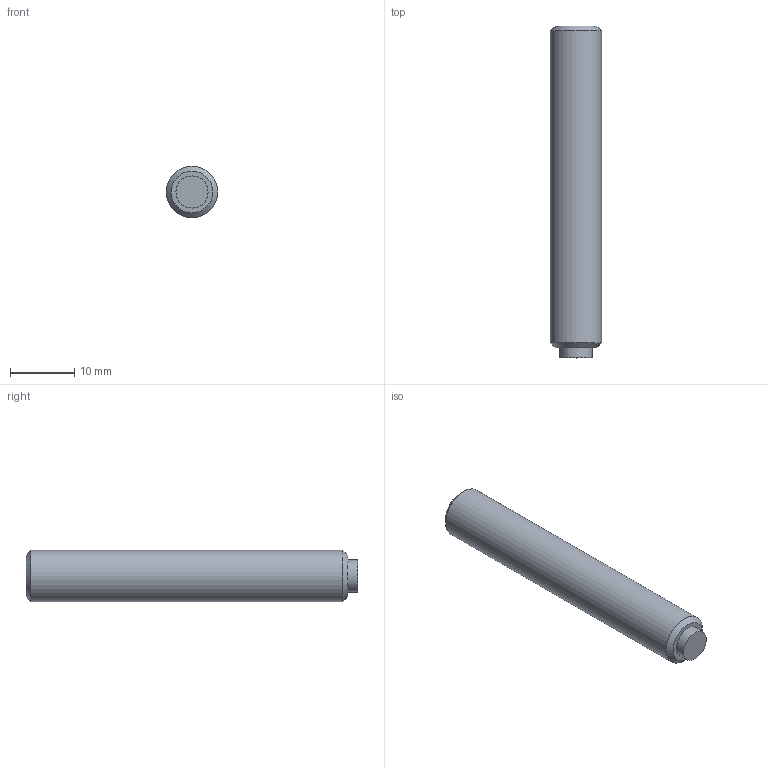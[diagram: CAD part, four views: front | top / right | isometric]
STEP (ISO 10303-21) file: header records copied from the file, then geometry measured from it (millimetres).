
FILE_DESCRIPTION( ( 'STEP AP203' ), '1' );
FILE_NAME( 'C:/Temp/Ganter_Step_05_03_2020/data/3_2/gn913_3/Grub screw GN 913.3-M8-50-KU.stp', '2020-03-13T05:35:39', ( 'License CC BY-ND 4.0' ), ( 'CADENAS' ), ' ', 'PARTsolutions', ' ' );
FILE_SCHEMA( ( 'CONFIG_CONTROL_DESIGN' ) );
Length unit declared in the file: millimetre
Products named in the file (1): _Grub screw GN 913.3-M8-50-KU
Bounding box: 8 x 51.6 x 8 mm (x, y, z)
Volume: 2461.6 mm3; surface area: 1427.5 mm2
Topology: 1 solids, 1 shells, 14 faces, 28 edges, 18 vertices
Faces by surface type: plane 10, cylinder 2, cone 2
Full cylindrical faces by diameter (mm): 5 x1, 8 x1
Entity records: 386 total; most frequent: DIRECTION 60, CARTESIAN_POINT 57, ORIENTED_EDGE 48, EDGE_CURVE 24, AXIS2_PLACEMENT_3D 21, EDGE_LOOP 20, VERTEX_POINT 18, LINE 18
